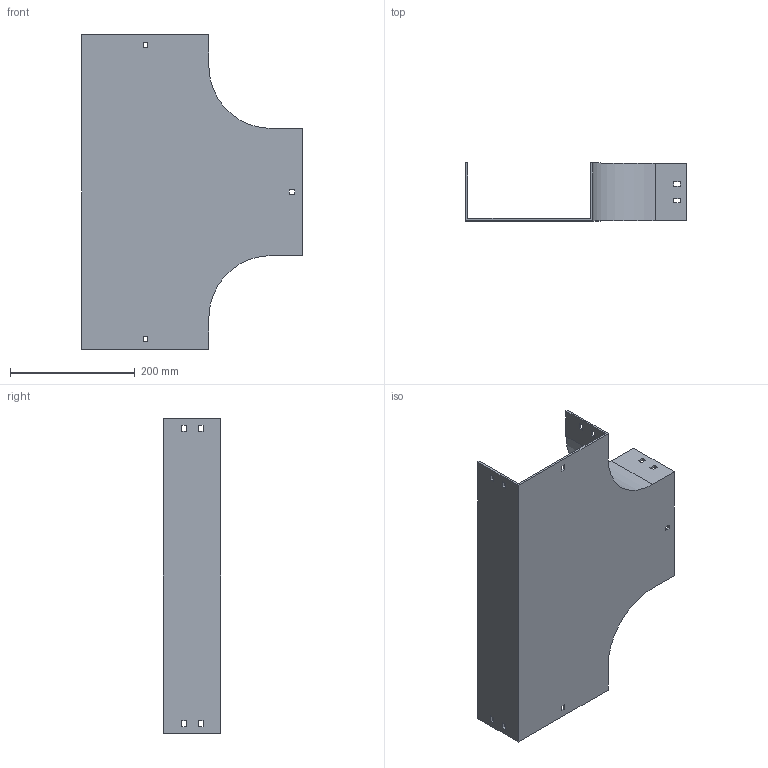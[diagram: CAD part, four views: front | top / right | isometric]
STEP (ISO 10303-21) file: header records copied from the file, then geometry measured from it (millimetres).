
FILE_DESCRIPTION (( 'STEP AP214' ), '1' );
FILE_NAME ('15B1I200.step', '2025-02-21T09:55:46', ( '' ), ( '' ), 'SwSTEP 2.0', 'SolidWorks 2023', '' );
FILE_SCHEMA (( 'AUTOMOTIVE_DESIGN' ));
Length unit declared in the file: millimetre
Products named in the file (1): 15B1I200
Bounding box: 354 x 92.5 x 504 mm (x, y, z)
Volume: 797293.1 mm3; surface area: 464924.1 mm2
Topology: 1 solids, 1 shells, 82 faces, 240 edges, 160 vertices
Faces by surface type: plane 78, cylinder 4
Entity records: 2755 total; most frequent: CARTESIAN_POINT 483, ORIENTED_EDGE 480, DIRECTION 414, EDGE_CURVE 240, LINE 232, VECTOR 232, VERTEX_POINT 160, EDGE_LOOP 112
